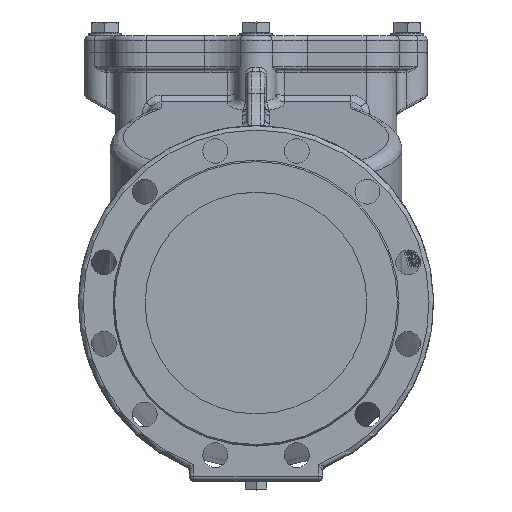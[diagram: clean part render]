
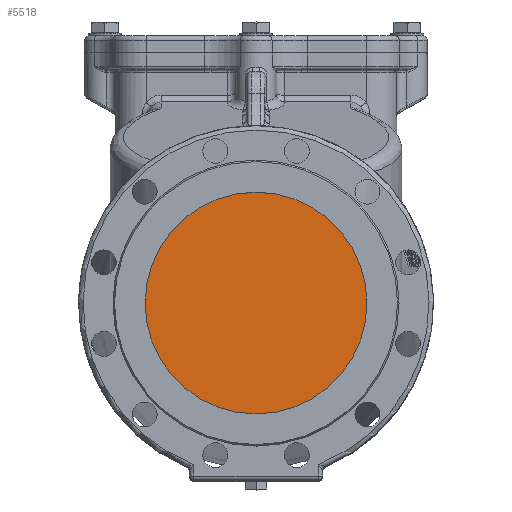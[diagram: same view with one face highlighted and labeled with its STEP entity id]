
A CAD part, top view. The second image highlights one B-rep face of the part: STEP entity #5518.
In plain terms, the highlighted planar face has unit normal (0, 0, 1).
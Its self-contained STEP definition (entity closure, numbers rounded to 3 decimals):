
#5518=ADVANCED_FACE('',(#15756),#15758,.F.);
#15756=FACE_BOUND('',#15757,.T.);
#15757=EDGE_LOOP('',(#20385));
#15758=PLANE('',#15759);
#15759=AXIS2_PLACEMENT_3D('',#15760,#15761,#15762);
#15760=CARTESIAN_POINT('',(0.,0.,590.));
#15761=DIRECTION('',(0.,0.,-1.));
#15762=DIRECTION('',(-1.,0.,0.));
#20385=ORIENTED_EDGE('',*,*,#23278,.F.);
#23278=EDGE_CURVE('',#26324,#26324,#26325,.T.);
#26324=VERTEX_POINT('',#61139);
#26325=CIRCLE('',#61140,125.);
#61139=CARTESIAN_POINT('',(0.,-125.,590.));
#61140=AXIS2_PLACEMENT_3D('',#61141,#61142,#61143);
#61141=CARTESIAN_POINT('',(0.,0.,590.));
#61142=DIRECTION('',(0.,0.,-1.));
#61143=DIRECTION('',(1.,0.,0.));
